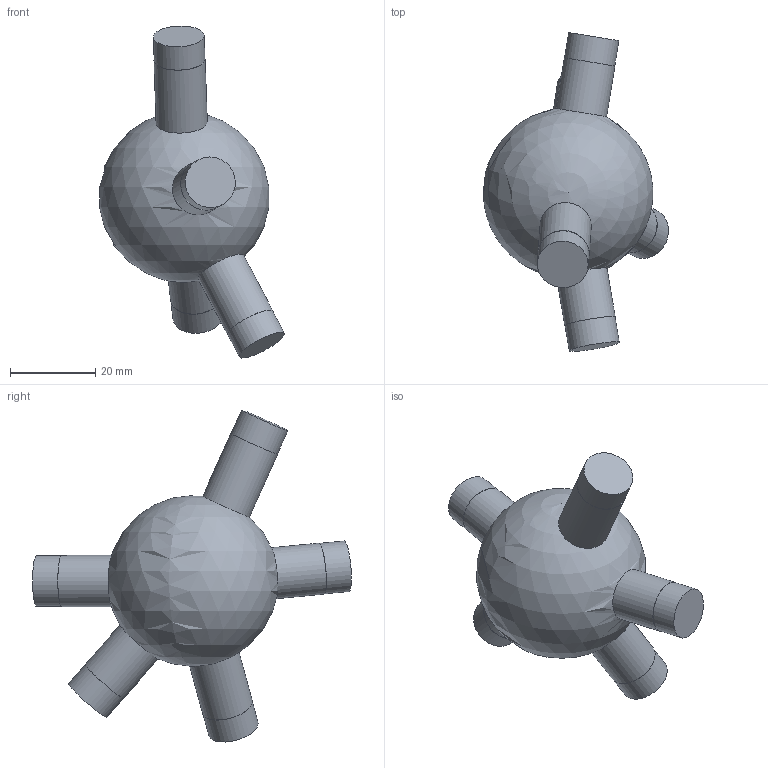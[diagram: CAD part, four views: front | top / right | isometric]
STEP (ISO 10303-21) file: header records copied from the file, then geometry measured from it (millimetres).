
FILE_DESCRIPTION(('Open CASCADE Model'),'2;1');
FILE_NAME('Open CASCADE Shape Model','2026-10-21T12:47:57',('Author'),( 'Open CASCADE'),'Open CASCADE STEP processor 7.9','Open CASCADE 7.9' ,'Unknown');
FILE_SCHEMA(('AUTOMOTIVE_DESIGN { 1 0 10303 214 1 1 1 1 }'));
Length unit declared in the file: millimetre
Products named in the file (1): Open CASCADE STEP translator 7.9 132
Bounding box: 43.34 x 74.7 x 77.77 mm (x, y, z)
Volume: 44203.3 mm3; surface area: 8674.4 mm2
Topology: 1 solids, 1 shells, 21 faces, 35 edges, 24 vertices
Faces by surface type: cylinder 10, plane 10, sphere 1
Full cylindrical faces by diameter (mm): 11.9 x5, 12 x5
Entity records: 1320 total; most frequent: CARTESIAN_POINT 526, DIRECTION 163, ORIENTED_EDGE 68, PCURVE 68, DEFINITIONAL_REPRESENTATION 68, LINE 56, VECTOR 56, AXIS2_PLACEMENT_3D 46
